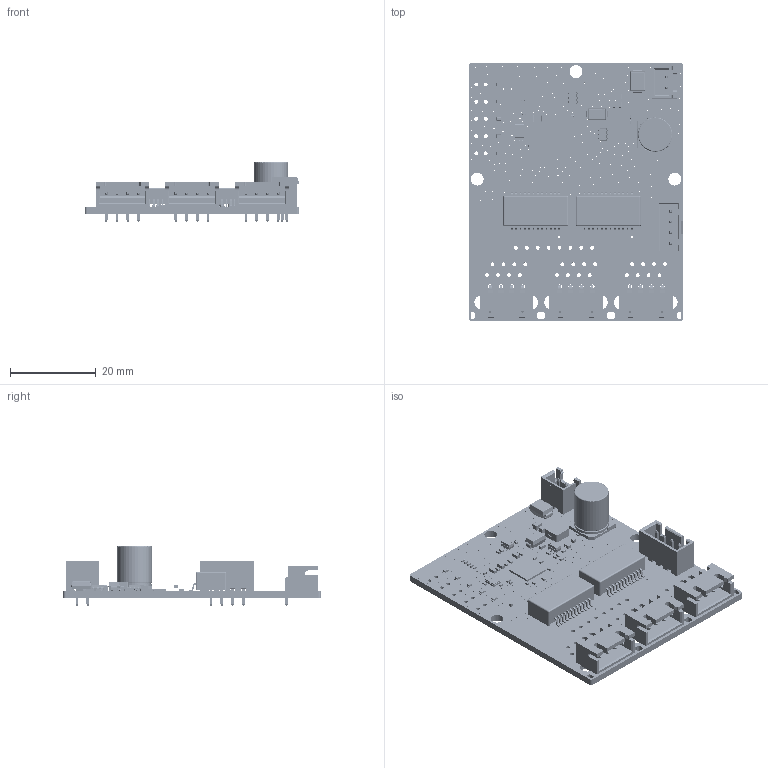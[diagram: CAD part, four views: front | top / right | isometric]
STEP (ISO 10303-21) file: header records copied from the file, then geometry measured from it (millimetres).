
FILE_DESCRIPTION(('Designed by EasyEDA Pro'),'2;1');
FILE_NAME('Open CASCADE Shape Model','2026-07-22T12:05:44',('Author'),( 'Open CASCADE'),'Open CASCADE STEP processor 7.8','Open CASCADE 7.8' ,'Unknown');
FILE_SCHEMA(('AUTOMOTIVE_DESIGN { 1 0 10303 214 1 1 1 1 }'));
Length unit declared in the file: millimetre
Products named in the file (556): EasyEDA PCB Model~zIq2; Board~zIq2; TopCopper~zIq2; BottomCopper~zIq2; TopSilkscreen~zIq2; BottomSilkscreen~zIq2; TopFpcStiffener~zIq2; BottomFpcStiffener~zIq2; C33~1206~C1206_L3.2-W1.6-H1.3_1~zIq2; 1206~C1206_L3.2-W1.6-H1.3_1~zIq2; C18~1206~C1206_L3.2-W1.6-H1.3_1~zIq2; C0402~C0402~bLru; C15~C0402~C0402~6iB1; C2~C0402~C0402~cSCA; C7~C0402~C0402~8Q4a; C36~C0402~C0402~pQqG; C40~C0402~C0402~D5CN; C42~C0402~C0402~RYol; C43~C0402~C0402~R1sF; C45~C0402~C0402~qGdn; C46~C0402~C0402~zwqK; C47~C0402~C0402~pvId; C50~C0402~C0402~4ywC; C51~C0402~C0402~V4ON; C52~C0402~C0402~jQmL; C53~C0402~C0402~c6G4; C55~C0402~C0402~n6xa; C60~C0402~C0402~NZXx; C14~C0402~C0402~rAum; C12~C0402~C0402~UjgY; C1~C0402~C0402~bc3E; C9~C0402~C0402~E60m; C30~C0402~C0402~MJAt; R0402~R0402_L1.0-W0.5-H0.5_NTC~7ca3; R2~R0402~R0402_L1.0-W0.5-H0.5_NTC~GyG4; R4~R0402~R0402_L1.0-W0.5-H0.5_NTC~Bcf8; R47~R0402~R0402_L1.0-W0.5-H0.5_NTC~O44o; R6~R0402~R0402_L1.0-W0.5-H0.5_NTC~m10s; R67~R0402~R0402_L1.0-W0.5-H0.5_NTC~v0i5; R9~R0402~R0402_L1.0-W0.5-H0.5_NTC~pVTE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
Assembly tree (600 placements, depth 3):
  EasyEDA PCB Model~zIq2
    Board~zIq2
    TopCopper~zIq2
      TopCopper~zIq2
      TopCopper~zIq2
      TopCopper~zIq2
      TopCopper~zIq2
      TopCopper~zIq2
      TopCopper~zIq2
      TopCopper~zIq2
      TopCopper~zIq2
      TopCopper~zIq2
      TopCopper~zIq2
      TopCopper~zIq2
      TopCopper~zIq2
      TopCopper~zIq2
      TopCopper~zIq2
      TopCopper~zIq2
      TopCopper~zIq2
      TopCopper~zIq2
      TopCopper~zIq2
      TopCopper~zIq2
      TopCopper~zIq2
      TopCopper~zIq2
      TopCopper~zIq2
      TopCopper~zIq2
      TopCopper~zIq2
      TopCopper~zIq2
      TopCopper~zIq2
      TopCopper~zIq2
      TopCopper~zIq2
      TopCopper~zIq2
      TopCopper~zIq2
      TopCopper~zIq2
      TopCopper~zIq2
      TopCopper~zIq2
      TopCopper~zIq2
      TopCopper~zIq2
      TopCopper~zIq2
      TopCopper~zIq2
      TopCopper~zIq2
      TopCopper~zIq2
      TopCopper~zIq2
      TopCopper~zIq2
      TopCopper~zIq2
      TopCopper~zIq2
      TopCopper~zIq2
      TopCopper~zIq2
      TopCopper~zIq2
      TopCopper~zIq2
      TopCopper~zIq2
      TopCopper~zIq2
      TopCopper~zIq2
      TopCopper~zIq2
      TopCopper~zIq2
      TopCopper~zIq2
      TopCopper~zIq2
      TopCopper~zIq2
      TopCopper~zIq2
      TopCopper~zIq2
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Bounding box: 49.97 x 59.97 x 14 mm (x, y, z)
Volume: 7475.6 mm3; surface area: 15044.6 mm2
Topology: 243 solids, 712 shells, 23470 faces, 96247 edges, 74860 vertices
Faces by surface type: plane 13377, bspline 6552, cylinder 3132, sphere 354, torus 39, cone 16
Full cylindrical faces by diameter (mm): 0.8 x4, 7.5 x1, 8 x2
Entity records: 627626 total; most frequent: CARTESIAN_POINT 146761, ORIENTED_EDGE 74873, DIRECTION 70826, EDGE_CURVE 54624, VERTEX_POINT 47834, LINE 43702, VECTOR 43702, AXIS2_PLACEMENT_3D 13562
